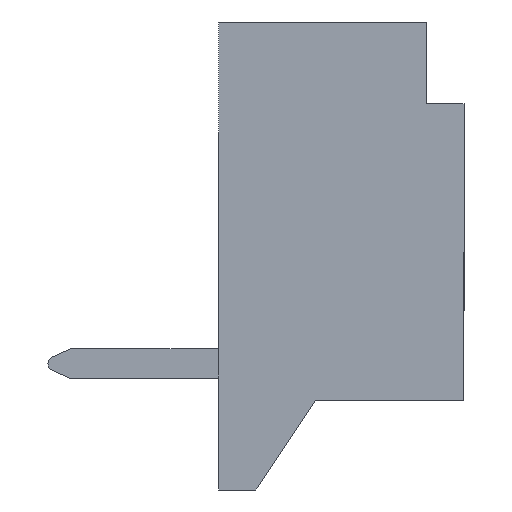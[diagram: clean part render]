
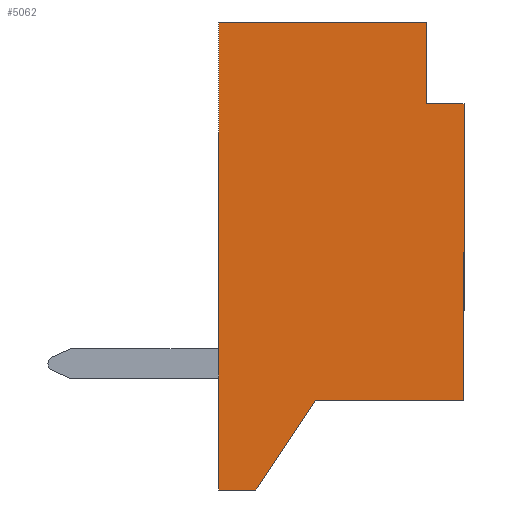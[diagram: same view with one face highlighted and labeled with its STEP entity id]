
A CAD part, left-side view. The second image highlights one B-rep face of the part: STEP entity #5062.
In plain terms, the highlighted planar face has unit normal (-1, 0, 0).
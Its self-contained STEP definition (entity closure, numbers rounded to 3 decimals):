
#890=CARTESIAN_POINT('Vertex',(-10.25,3.3,-1.2)) ;
#893=CARTESIAN_POINT('Line Origine',(-10.25,3.3,1.95)) ;
#897=CARTESIAN_POINT('Vertex',(-10.25,3.3,5.1)) ;
#2288=CARTESIAN_POINT('Vertex',(-10.25,0.,4.)) ;
#2291=CARTESIAN_POINT('Line Origine',(-10.25,0.,2.)) ;
#2295=CARTESIAN_POINT('Vertex',(-10.25,0.,0.)) ;
#5009=CARTESIAN_POINT('Axis2P3D Location',(-10.25,0.,0.)) ;
#5014=CARTESIAN_POINT('Line Origine',(-10.25,0.25,4.)) ;
#5018=CARTESIAN_POINT('Vertex',(-10.25,0.5,4.)) ;
#5021=CARTESIAN_POINT('Line Origine',(-10.25,0.5,4.55)) ;
#5025=CARTESIAN_POINT('Vertex',(-10.25,0.5,5.1)) ;
#5028=CARTESIAN_POINT('Line Origine',(-10.25,1.9,5.1)) ;
#5033=CARTESIAN_POINT('Line Origine',(-10.25,3.05,-1.2)) ;
#5037=CARTESIAN_POINT('Vertex',(-10.25,2.8,-1.2)) ;
#5040=CARTESIAN_POINT('Line Origine',(-10.25,2.4,-0.6)) ;
#5044=CARTESIAN_POINT('Vertex',(-10.25,2.,0.)) ;
#5047=CARTESIAN_POINT('Line Origine',(-10.25,1.,0.)) ;
#894=DIRECTION('Vector Direction',(0.,0.,-1.)) ;
#2292=DIRECTION('Vector Direction',(0.,0.,1.)) ;
#5010=DIRECTION('Axis2P3D Direction',(1.,0.,0.)) ;
#5011=DIRECTION('Axis2P3D XDirection',(0.,1.,0.)) ;
#5015=DIRECTION('Vector Direction',(0.,1.,0.)) ;
#5022=DIRECTION('Vector Direction',(0.,0.,1.)) ;
#5029=DIRECTION('Vector Direction',(0.,1.,0.)) ;
#5034=DIRECTION('Vector Direction',(0.,-1.,0.)) ;
#5041=DIRECTION('Vector Direction',(0.,-0.555,0.832)) ;
#5048=DIRECTION('Vector Direction',(0.,-1.,0.)) ;
#5012=AXIS2_PLACEMENT_3D('Plane Axis2P3D',#5009,#5010,#5011) ;
#5053=ORIENTED_EDGE('',*,*,#2297,.F.) ;
#5054=ORIENTED_EDGE('',*,*,#5020,.F.) ;
#5055=ORIENTED_EDGE('',*,*,#5027,.F.) ;
#5056=ORIENTED_EDGE('',*,*,#5032,.F.) ;
#5057=ORIENTED_EDGE('',*,*,#899,.F.) ;
#5058=ORIENTED_EDGE('',*,*,#5039,.F.) ;
#5059=ORIENTED_EDGE('',*,*,#5046,.F.) ;
#5060=ORIENTED_EDGE('',*,*,#5051,.F.) ;
#895=VECTOR('Line Direction',#894,1.) ;
#2293=VECTOR('Line Direction',#2292,1.) ;
#5016=VECTOR('Line Direction',#5015,1.) ;
#5023=VECTOR('Line Direction',#5022,1.) ;
#5030=VECTOR('Line Direction',#5029,1.) ;
#5035=VECTOR('Line Direction',#5034,1.) ;
#5042=VECTOR('Line Direction',#5041,1.) ;
#5049=VECTOR('Line Direction',#5048,1.) ;
#5062=ADVANCED_FACE('\X2\96F64EF651E04F554F53\X0\',(#5061),#5013,.F.) ;
#899=EDGE_CURVE('',#891,#898,#896,.F.) ;
#2297=EDGE_CURVE('',#2289,#2296,#2294,.F.) ;
#5020=EDGE_CURVE('',#5019,#2289,#5017,.F.) ;
#5027=EDGE_CURVE('',#5026,#5019,#5024,.F.) ;
#5032=EDGE_CURVE('',#898,#5026,#5031,.F.) ;
#5039=EDGE_CURVE('',#5038,#891,#5036,.F.) ;
#5046=EDGE_CURVE('',#5045,#5038,#5043,.F.) ;
#5051=EDGE_CURVE('',#2296,#5045,#5050,.F.) ;
#5052=EDGE_LOOP('',(#5053,#5054,#5055,#5056,#5057,#5058,#5059,#5060)) ;
#5061=FACE_OUTER_BOUND('',#5052,.T.) ;
#896=LINE('Line',#893,#895) ;
#2294=LINE('Line',#2291,#2293) ;
#5017=LINE('Line',#5014,#5016) ;
#5024=LINE('Line',#5021,#5023) ;
#5031=LINE('Line',#5028,#5030) ;
#5036=LINE('Line',#5033,#5035) ;
#5043=LINE('Line',#5040,#5042) ;
#5050=LINE('Line',#5047,#5049) ;
#5013=PLANE('Plane',#5012) ;
#891=VERTEX_POINT('',#890) ;
#898=VERTEX_POINT('',#897) ;
#2289=VERTEX_POINT('',#2288) ;
#2296=VERTEX_POINT('',#2295) ;
#5019=VERTEX_POINT('',#5018) ;
#5026=VERTEX_POINT('',#5025) ;
#5038=VERTEX_POINT('',#5037) ;
#5045=VERTEX_POINT('',#5044) ;
